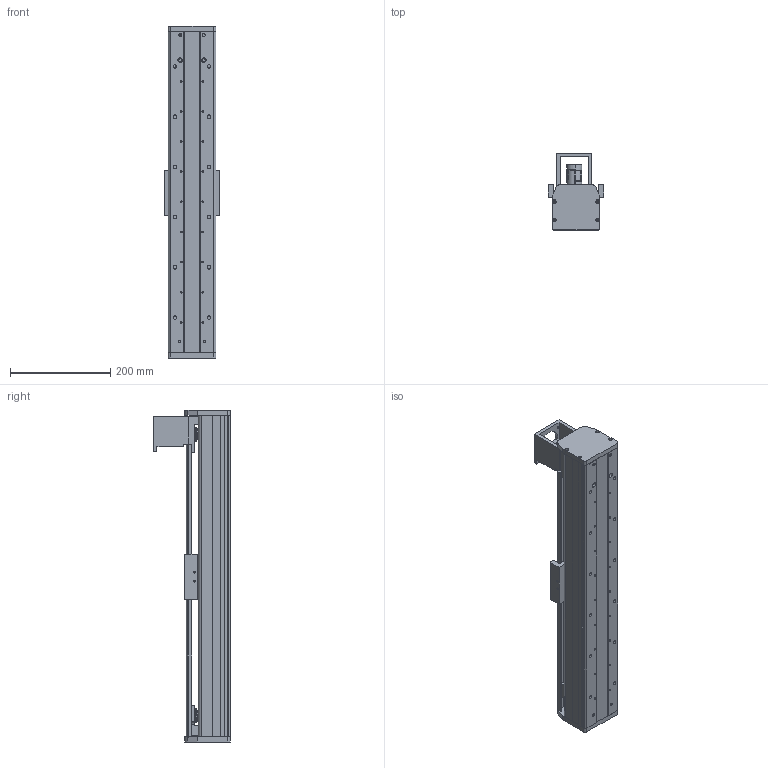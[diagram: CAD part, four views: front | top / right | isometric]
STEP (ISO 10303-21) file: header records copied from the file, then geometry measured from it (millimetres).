
FILE_DESCRIPTION (( 'STEP AP214' ), '1' );
FILE_NAME ('CF95-2-D-FWU.STEP', '2016-07-18T00:14:58', ( 'Sky123.Org' ), ( 'Sky123.Org' ), 'SwSTEP 2.0', 'SolidWorks 2015', '' );
FILE_SCHEMA (( 'AUTOMOTIVE_DESIGN' ));
Length unit declared in the file: millimetre
Products named in the file (20): 30-42薊粣ん; 肮祭湍揤啣; 翋雄粣杶; deep groove ball bearings gb_Rolling bearings 6001 GB 276-94; 植雄粣杶; 植雄粣; deep groove ball bearings gb_Rolling bearings 6000 GB 276-94; 95-2耜啣; 95-2同步带从动端侧板; 5M-Z15-25-囀噤12; 翋雄粣; 95裔啣-1240; 薊粣ん杶; 植雄釱; 翋雄釱; CF95-2-1241臏倰第; HGR15-俴最1000-絳寢; hGH15CA賑輸; 95-2同步带滑动板(永昌专用); CF95-2-D-FWU
Assembly tree (24 placements, depth 2):
  CF95-2-D-FWU
    hGH15CA賑輸  x2
    HGR15-俴最1000-絳寢  x2
    CF95-2-1241臏倰第
    翋雄釱
    植雄釱
    薊粣ん杶
    95裔啣-1240
    翋雄粣
    5M-Z15-25-囀噤12  x2
    95-2同步带从动端侧板
    95-2耜啣
    deep groove ball bearings gb_Rolling bearings 6000 GB 276-94  x2
    植雄粣
    植雄粣杶
    deep groove ball bearings gb_Rolling bearings 6001 GB 276-94  x2
    翋雄粣杶
    肮祭湍揤啣
    30-42薊粣ん
    95-2同步带滑动板(永昌专用)
Bounding box: 110.11 x 153.5 x 661 mm (x, y, z)
Volume: 2352931.8 mm3; surface area: 786586.8 mm2
Topology: 29 solids, 29 shells, 1709 faces, 5468 edges, 3646 vertices
Faces by surface type: plane 683, cylinder 616, torus 206, sphere 108, bspline 92, cone 4
Entity records: 54626 total; most frequent: CARTESIAN_POINT 16918, ORIENTED_EDGE 7742, DIRECTION 7215, EDGE_CURVE 3871, AXIS2_PLACEMENT_3D 2671, VERTEX_POINT 2572, LINE 1873, VECTOR 1873
